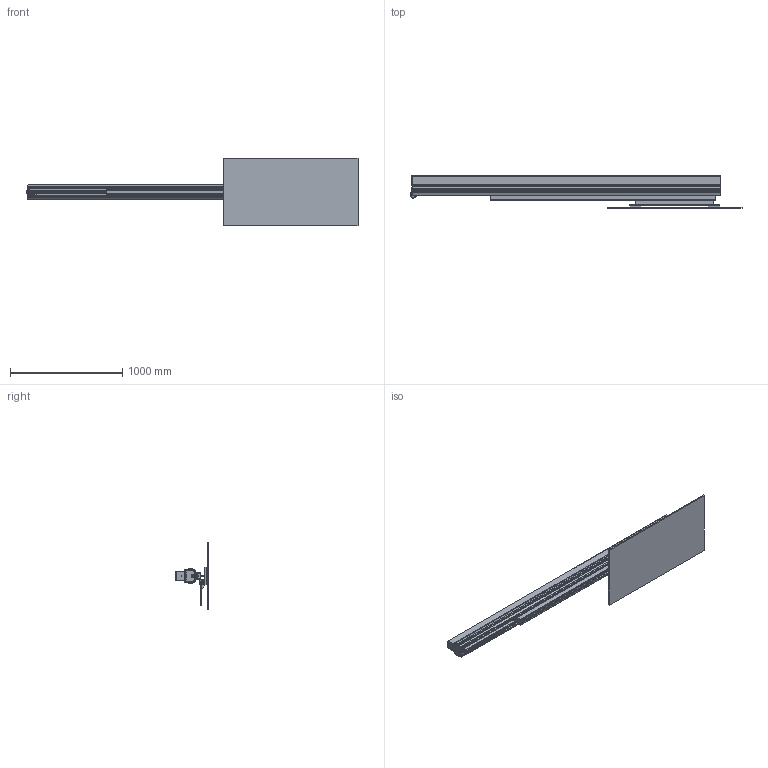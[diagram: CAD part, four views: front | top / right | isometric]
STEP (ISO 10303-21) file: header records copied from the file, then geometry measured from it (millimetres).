
FILE_DESCRIPTION (( 'STEP AP214' ), '1' );
FILE_NAME ('PS750_LRP_BG.STEP', '2026-02-10T07:44:18', ( '' ), ( '' ), 'SwSTEP 2.0', 'SolidWorks 2024', '' );
FILE_SCHEMA (( 'AUTOMOTIVE_DESIGN' ));
Length unit declared in the file: millimetre
Products named in the file (18): MOTORKONSOLE LIVI PS__1; PS 7,5; MGD3-EDR; Profilschlitten 7,5; PS 7,5 GP; PS 7,5 GP Unterteil; MGD1-EDR; MGD3 ED; ALSQ - 1m; MOTORKONSOLE LIVI PS__2; PS_LRP_Boden; PS 7,5 GP Unterteil1; MOTORKONSOLE LIVI PS__3; PS 7,5 LS1260x__Volumenk_S_vrper1_1; ALS - 1m; MGD1 ED; PS750_LRP_BG; Motorkonsole LIVI PS
Assembly tree (18 placements, depth 3):
  PS750_LRP_BG
    PS_LRP_Boden
    Profilschlitten 7,5
      PS 7,5
      PS 7,5 GP
      PS 7,5 GP Unterteil1
      PS 7,5 GP Unterteil
      PS 7,5 LS1260x__Volumenk_S_vrper1_1
    Motorkonsole LIVI PS
      MOTORKONSOLE LIVI PS__3
      MOTORKONSOLE LIVI PS__1  x2
      MOTORKONSOLE LIVI PS__2
    ALS - 1m
    ALSQ - 1m
    MGD1 ED
    MGD1-EDR
    MGD3 ED
    MGD3-EDR
Bounding box: 2962.57 x 290.03 x 600 mm (x, y, z)
Volume: 26425740.3 mm3; surface area: 11486299.3 mm2
Topology: 24 solids, 24 shells, 938 faces, 2641 edges, 1759 vertices
Faces by surface type: plane 515, cylinder 395, bspline 24, cone 4
Full cylindrical faces by diameter (mm): 4.2 x1, 4.917 x8, 5 x8, 6.5 x16, 6.8 x3, 8 x12, 8.15 x4, 8.4 x4, 8.5 x2, 11 x2, 12 x2, 13.835 x8, 16 x4, 58 x2
Entity records: 30855 total; most frequent: CARTESIAN_POINT 5971, DIRECTION 5033, ORIENTED_EDGE 4972, EDGE_CURVE 2486, VERTEX_POINT 1706, AXIS2_PLACEMENT_3D 1685, VECTOR 1663, LINE 1663
